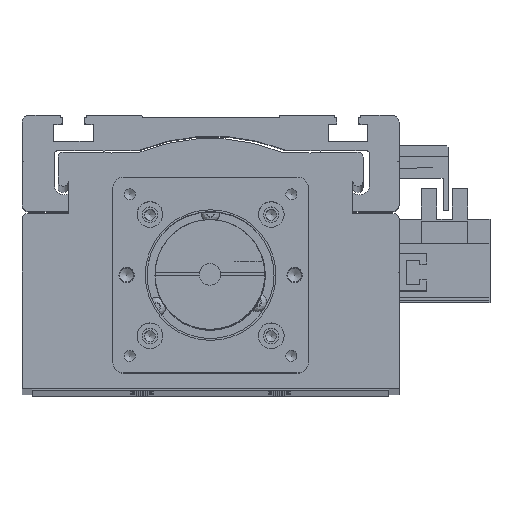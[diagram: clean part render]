
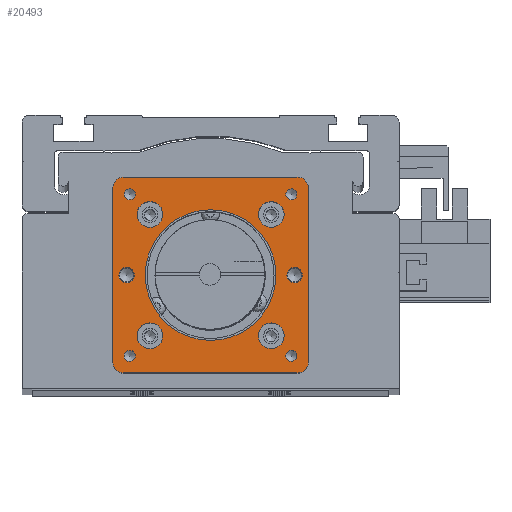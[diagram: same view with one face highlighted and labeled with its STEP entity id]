
A CAD part, top view. The second image highlights one B-rep face of the part: STEP entity #20493.
In plain terms, the highlighted planar face has unit normal (0, 0, 1).
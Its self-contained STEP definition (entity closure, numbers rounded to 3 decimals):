
#20257=CARTESIAN_POINT('',(54.0,57.0,0.0));
#20258=VERTEX_POINT('',#20257);
#20265=CARTESIAN_POINT('',(57.0,54.0,0.0));
#20266=VERTEX_POINT('',#20265);
#20267=CARTESIAN_POINT('',(54.0,54.0,0.0));
#20268=DIRECTION('',(0.0,0.0,-1.));
#20269=DIRECTION('',(0.707,0.707,0.0));
#20270=AXIS2_PLACEMENT_3D('',#20267,#20268,#20269);
#20271=CIRCLE('',#20270,3.);
#20272=EDGE_CURVE('',#20258,#20266,#20271,.T.);
#20289=CARTESIAN_POINT('',(57.0,3.,0.0));
#20290=VERTEX_POINT('',#20289);
#20291=CARTESIAN_POINT('',(57.0,3.,0.0));
#20292=DIRECTION('',(0.0,1.0,0.0));
#20293=VECTOR('',#20292,51.0);
#20294=LINE('',#20291,#20293);
#20295=EDGE_CURVE('',#20290,#20266,#20294,.T.);
#20314=CARTESIAN_POINT('',(28.5,28.5,0.0));
#20315=DIRECTION('',(0.0,0.0,1.0));
#20316=DIRECTION('',(1.0,0.0,0.0));
#20317=AXIS2_PLACEMENT_3D('',#20314,#20315,#20316);
#20318=PLANE('',#20317);
#20319=ORIENTED_EDGE('',*,*,#20272,.F.);
#20320=CARTESIAN_POINT('',(3.,57.0,0.0));
#20321=VERTEX_POINT('',#20320);
#20322=CARTESIAN_POINT('',(54.0,57.0,0.0));
#20323=DIRECTION('',(-1.0,0.0,0.0));
#20324=VECTOR('',#20323,51.0);
#20325=LINE('',#20322,#20324);
#20326=EDGE_CURVE('',#20258,#20321,#20325,.T.);
#20327=ORIENTED_EDGE('',*,*,#20326,.T.);
#20328=CARTESIAN_POINT('',(0.0,54.0,0.0));
#20329=VERTEX_POINT('',#20328);
#20330=CARTESIAN_POINT('',(3.,54.0,0.0));
#20331=DIRECTION('',(0.0,0.0,-1.0));
#20332=DIRECTION('',(-0.707,0.707,0.0));
#20333=AXIS2_PLACEMENT_3D('',#20330,#20331,#20332);
#20334=CIRCLE('',#20333,3.0);
#20335=EDGE_CURVE('',#20329,#20321,#20334,.T.);
#20336=ORIENTED_EDGE('',*,*,#20335,.F.);
#20337=CARTESIAN_POINT('',(0.0,3.,0.0));
#20338=VERTEX_POINT('',#20337);
#20339=CARTESIAN_POINT('',(0.0,54.0,0.0));
#20340=DIRECTION('',(0.0,-1.0,0.0));
#20341=VECTOR('',#20340,51.0);
#20342=LINE('',#20339,#20341);
#20343=EDGE_CURVE('',#20329,#20338,#20342,.T.);
#20344=ORIENTED_EDGE('',*,*,#20343,.T.);
#20345=CARTESIAN_POINT('',(3.,0.0,0.0));
#20346=VERTEX_POINT('',#20345);
#20347=CARTESIAN_POINT('',(3.,3.,0.0));
#20348=DIRECTION('',(0.0,0.0,-1.));
#20349=DIRECTION('',(-0.707,-0.707,0.0));
#20350=AXIS2_PLACEMENT_3D('',#20347,#20348,#20349);
#20351=CIRCLE('',#20350,3.);
#20352=EDGE_CURVE('',#20346,#20338,#20351,.T.);
#20353=ORIENTED_EDGE('',*,*,#20352,.F.);
#20354=CARTESIAN_POINT('',(54.0,0.0,0.0));
#20355=VERTEX_POINT('',#20354);
#20356=CARTESIAN_POINT('',(3.,0.0,0.0));
#20357=DIRECTION('',(1.0,0.0,0.0));
#20358=VECTOR('',#20357,51.0);
#20359=LINE('',#20356,#20358);
#20360=EDGE_CURVE('',#20346,#20355,#20359,.T.);
#20361=ORIENTED_EDGE('',*,*,#20360,.T.);
#20362=CARTESIAN_POINT('',(54.0,3.,0.0));
#20363=DIRECTION('',(0.0,0.0,-1.));
#20364=DIRECTION('',(0.707,-0.707,0.0));
#20365=AXIS2_PLACEMENT_3D('',#20362,#20363,#20364);
#20366=CIRCLE('',#20365,3.);
#20367=EDGE_CURVE('',#20290,#20355,#20366,.T.);
#20368=ORIENTED_EDGE('',*,*,#20367,.F.);
#20369=ORIENTED_EDGE('',*,*,#20295,.T.);
#20370=EDGE_LOOP('',(#20319,#20327,#20336,#20344,#20353,#20361,#20368,#20369));
#20371=FACE_OUTER_BOUND('',#20370,.T.);
#20372=CARTESIAN_POINT('',(6.25,28.5,0.0));
#20373=VERTEX_POINT('',#20372);
#20374=CARTESIAN_POINT('',(4.,28.5,0.0));
#20375=DIRECTION('',(0.0,0.0,-1.0));
#20376=DIRECTION('',(1.0,0.0,0.0));
#20377=AXIS2_PLACEMENT_3D('',#20374,#20375,#20376);
#20378=CIRCLE('',#20377,2.25);
#20379=EDGE_CURVE('',#20373,#20373,#20378,.T.);
#20380=ORIENTED_EDGE('',*,*,#20379,.T.);
#20381=EDGE_LOOP('',(#20380));
#20382=FACE_BOUND('',#20381,.T.);
#20383=CARTESIAN_POINT('',(55.25,28.5,0.0));
#20384=VERTEX_POINT('',#20383);
#20385=CARTESIAN_POINT('',(53.,28.5,0.0));
#20386=DIRECTION('',(0.0,0.0,-1.0));
#20387=DIRECTION('',(1.0,0.0,0.0));
#20388=AXIS2_PLACEMENT_3D('',#20385,#20386,#20387);
#20389=CIRCLE('',#20388,2.25);
#20390=EDGE_CURVE('',#20384,#20384,#20389,.T.);
#20391=ORIENTED_EDGE('',*,*,#20390,.T.);
#20392=EDGE_LOOP('',(#20391));
#20393=FACE_BOUND('',#20392,.T.);
#20394=CARTESIAN_POINT('',(6.546,4.925,0.0));
#20395=VERTEX_POINT('',#20394);
#20396=CARTESIAN_POINT('',(4.925,4.925,0.0));
#20397=DIRECTION('',(0.0,0.0,-1.0));
#20398=DIRECTION('',(1.0,0.0,0.0));
#20399=AXIS2_PLACEMENT_3D('',#20396,#20397,#20398);
#20400=CIRCLE('',#20399,1.621);
#20401=EDGE_CURVE('',#20395,#20395,#20400,.T.);
#20402=ORIENTED_EDGE('',*,*,#20401,.T.);
#20403=EDGE_LOOP('',(#20402));
#20404=FACE_BOUND('',#20403,.T.);
#20405=CARTESIAN_POINT('',(53.696,52.075,0.0));
#20406=VERTEX_POINT('',#20405);
#20407=CARTESIAN_POINT('',(52.075,52.075,0.0));
#20408=DIRECTION('',(0.0,0.0,-1.0));
#20409=DIRECTION('',(1.0,0.0,0.0));
#20410=AXIS2_PLACEMENT_3D('',#20407,#20408,#20409);
#20411=CIRCLE('',#20410,1.621);
#20412=EDGE_CURVE('',#20406,#20406,#20411,.T.);
#20413=ORIENTED_EDGE('',*,*,#20412,.T.);
#20414=EDGE_LOOP('',(#20413));
#20415=FACE_BOUND('',#20414,.T.);
#20416=CARTESIAN_POINT('',(6.546,52.075,0.0));
#20417=VERTEX_POINT('',#20416);
#20418=CARTESIAN_POINT('',(4.925,52.075,0.0));
#20419=DIRECTION('',(0.0,0.0,-1.0));
#20420=DIRECTION('',(1.0,0.0,0.0));
#20421=AXIS2_PLACEMENT_3D('',#20418,#20419,#20420);
#20422=CIRCLE('',#20421,1.621);
#20423=EDGE_CURVE('',#20417,#20417,#20422,.T.);
#20424=ORIENTED_EDGE('',*,*,#20423,.T.);
#20425=EDGE_LOOP('',(#20424));
#20426=FACE_BOUND('',#20425,.T.);
#20427=CARTESIAN_POINT('',(53.696,4.925,0.0));
#20428=VERTEX_POINT('',#20427);
#20429=CARTESIAN_POINT('',(52.075,4.925,0.0));
#20430=DIRECTION('',(0.0,0.0,-1.0));
#20431=DIRECTION('',(1.0,0.0,0.0));
#20432=AXIS2_PLACEMENT_3D('',#20429,#20430,#20431);
#20433=CIRCLE('',#20432,1.621);
#20434=EDGE_CURVE('',#20428,#20428,#20433,.T.);
#20435=ORIENTED_EDGE('',*,*,#20434,.T.);
#20436=EDGE_LOOP('',(#20435));
#20437=FACE_BOUND('',#20436,.T.);
#20438=CARTESIAN_POINT('',(49.95,10.8,0.0));
#20439=VERTEX_POINT('',#20438);
#20440=CARTESIAN_POINT('',(46.2,10.8,0.0));
#20441=DIRECTION('',(0.0,0.0,-1.0));
#20442=DIRECTION('',(1.0,0.0,0.0));
#20443=AXIS2_PLACEMENT_3D('',#20440,#20441,#20442);
#20444=CIRCLE('',#20443,3.75);
#20445=EDGE_CURVE('',#20439,#20439,#20444,.T.);
#20446=ORIENTED_EDGE('',*,*,#20445,.T.);
#20447=EDGE_LOOP('',(#20446));
#20448=FACE_BOUND('',#20447,.T.);
#20449=CARTESIAN_POINT('',(14.55,46.2,0.0));
#20450=VERTEX_POINT('',#20449);
#20451=CARTESIAN_POINT('',(10.8,46.2,0.0));
#20452=DIRECTION('',(0.0,0.0,-1.0));
#20453=DIRECTION('',(1.0,0.0,0.0));
#20454=AXIS2_PLACEMENT_3D('',#20451,#20452,#20453);
#20455=CIRCLE('',#20454,3.75);
#20456=EDGE_CURVE('',#20450,#20450,#20455,.T.);
#20457=ORIENTED_EDGE('',*,*,#20456,.T.);
#20458=EDGE_LOOP('',(#20457));
#20459=FACE_BOUND('',#20458,.T.);
#20460=CARTESIAN_POINT('',(49.95,46.2,0.0));
#20461=VERTEX_POINT('',#20460);
#20462=CARTESIAN_POINT('',(46.2,46.2,0.0));
#20463=DIRECTION('',(0.0,0.0,-1.0));
#20464=DIRECTION('',(1.0,0.0,0.0));
#20465=AXIS2_PLACEMENT_3D('',#20462,#20463,#20464);
#20466=CIRCLE('',#20465,3.75);
#20467=EDGE_CURVE('',#20461,#20461,#20466,.T.);
#20468=ORIENTED_EDGE('',*,*,#20467,.T.);
#20469=EDGE_LOOP('',(#20468));
#20470=FACE_BOUND('',#20469,.T.);
#20471=CARTESIAN_POINT('',(14.55,10.8,0.0));
#20472=VERTEX_POINT('',#20471);
#20473=CARTESIAN_POINT('',(10.8,10.8,0.0));
#20474=DIRECTION('',(0.0,0.0,-1.0));
#20475=DIRECTION('',(1.0,0.0,0.0));
#20476=AXIS2_PLACEMENT_3D('',#20473,#20474,#20475);
#20477=CIRCLE('',#20476,3.75);
#20478=EDGE_CURVE('',#20472,#20472,#20477,.T.);
#20479=ORIENTED_EDGE('',*,*,#20478,.T.);
#20480=EDGE_LOOP('',(#20479));
#20481=FACE_BOUND('',#20480,.T.);
#20482=CARTESIAN_POINT('',(47.55,28.5,0.0));
#20483=VERTEX_POINT('',#20482);
#20484=CARTESIAN_POINT('',(28.5,28.5,0.0));
#20485=DIRECTION('',(0.0,0.0,-1.0));
#20486=DIRECTION('',(-1.0,0.0,0.0));
#20487=AXIS2_PLACEMENT_3D('',#20484,#20485,#20486);
#20488=CIRCLE('',#20487,19.05);
#20489=EDGE_CURVE('',#20483,#20483,#20488,.T.);
#20490=ORIENTED_EDGE('',*,*,#20489,.T.);
#20491=EDGE_LOOP('',(#20490));
#20492=FACE_BOUND('',#20491,.T.);
#20493=ADVANCED_FACE('',(#20371,#20382,#20393,#20404,#20415,#20426,#20437,#20448,#20459,#20470,#20481,#20492),#20318,.T.);
